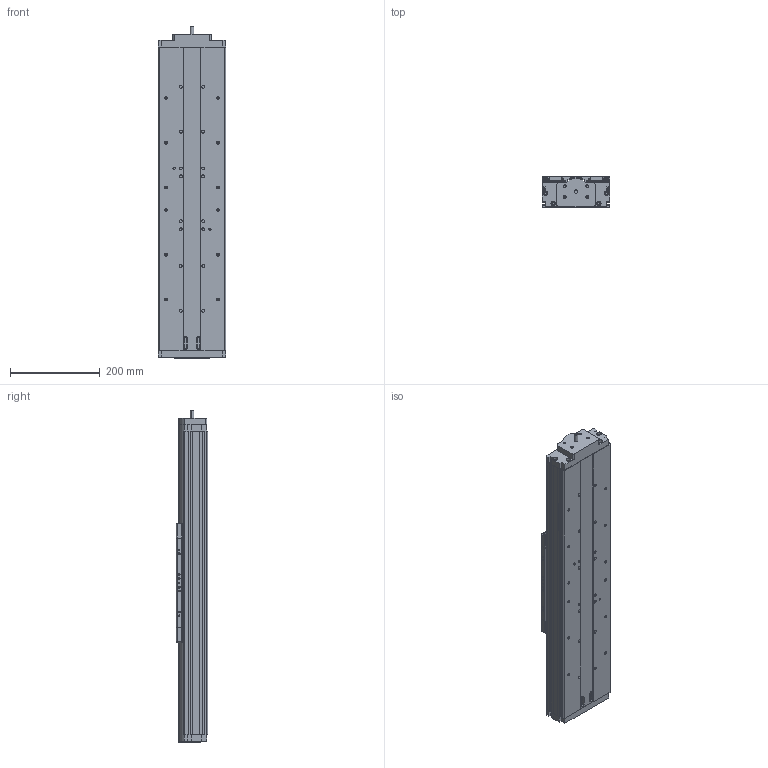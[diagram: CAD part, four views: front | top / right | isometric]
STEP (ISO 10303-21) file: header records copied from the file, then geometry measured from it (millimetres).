
FILE_DESCRIPTION((''),'2;1');
FILE_NAME('406XR-04_ASM','2002-07-12T',('FKrakosh'),(''),'PRO/ENGINEER BY PARAMETRIC TECHNOLOGY CORPORATION, 2000420','PRO/ENGINEER BY PARAMETRIC TECHNOLOGY CORPORATION, 2000420','');
FILE_SCHEMA(('CONFIG_CONTROL_DESIGN'));
Length unit declared in the file: millimetre
Products named in the file (8): 406XR-BASE-04; 406XR-REAR-END-BLK; 406XR-CARRIAGE; 10853610-01; 406XR-FEB-8MM; 10426110; 30321911; 406XR-04_ASM
Assembly tree (8 placements, depth 2):
  406XR-04_ASM
    406XR-BASE-04
    406XR-REAR-END-BLK
    406XR-CARRIAGE
    10853610-01  x2
    406XR-FEB-8MM
    10426110
    30321911
Bounding box: 150 x 69.9 x 741.4 mm (x, y, z)
Volume: 6318074.9 mm3; surface area: 534004.7 mm2
Topology: 8 solids, 58 shells, 876 faces, 2188 edges, 1460 vertices
Faces by surface type: cylinder 446, plane 400, bspline 16, sphere 12, cone 2
Entity records: 24876 total; most frequent: CARTESIAN_POINT 5420, DIRECTION 4262, ORIENTED_EDGE 3670, EDGE_CURVE 1931, AXIS2_PLACEMENT_3D 1629, VERTEX_POINT 1303, VECTOR 1004, LINE 1004
